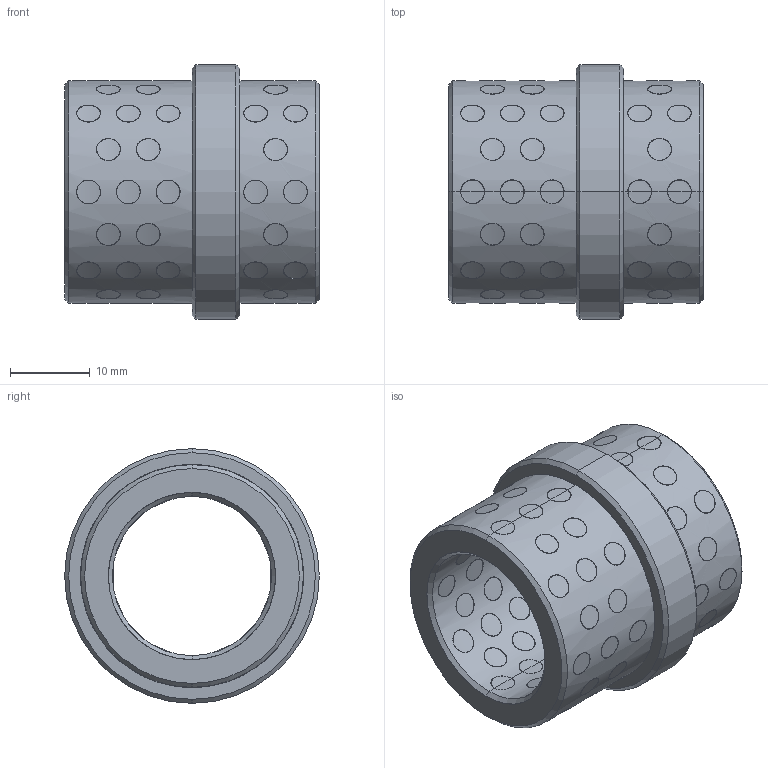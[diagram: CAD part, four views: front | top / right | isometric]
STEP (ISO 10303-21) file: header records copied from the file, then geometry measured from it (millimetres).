
FILE_DESCRIPTION(('CATIA V5 STEP Exchange'),'2;1');
FILE_NAME('C:\Users\Utente\Desktop\3D files G403\G4032032.stp','2020-04-22T08:51:34+00:00',('none'),('none'),'CATIA Version 5 Release 20 GA (IN-10)','CATIA V5 STEP AP203','none');
FILE_SCHEMA(('CONFIG_CONTROL_DESIGN'));
Length unit declared in the file: millimetre
Products named in the file (1): G4032032
Bounding box: 32 x 32 x 32 mm (x, y, z)
Surface area: 10507.4 mm2 (no closed solid volume)
Topology: 0 solids, 428 shells, 428 faces, 1872 edges, 1872 vertices
Faces by surface type: cylinder 412, revolution 12, plane 4
Entity records: 32971 total; most frequent: CARTESIAN_POINT 20002, ORIENTED_EDGE 1872, EDGE_CURVE 1872, VERTEX_POINT 1872, DIRECTION 1523, B_SPLINE_CURVE_WITH_KNOTS 1205, VECTOR 632, LINE 632
